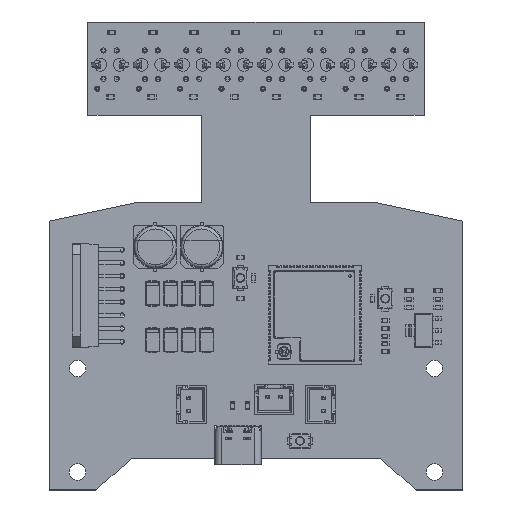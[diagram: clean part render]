
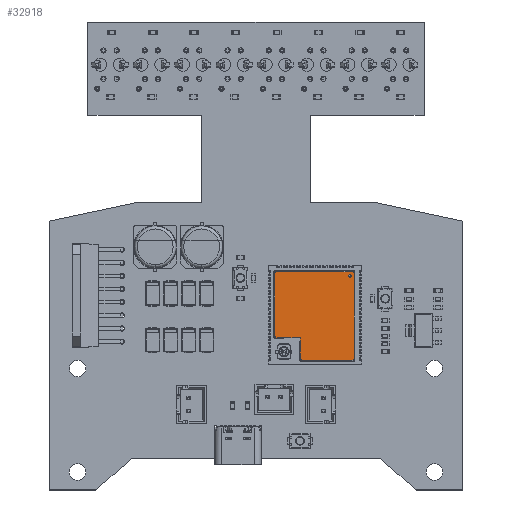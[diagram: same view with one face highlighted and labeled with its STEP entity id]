
A CAD part, top view. The second image highlights one B-rep face of the part: STEP entity #32918.
In plain terms, the highlighted planar face has unit normal (0, 0, 1) as drawn and (0, 1, 0) by its records, which use the part's own axes.
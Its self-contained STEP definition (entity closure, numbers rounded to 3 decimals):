
#32635 = VERTEX_POINT('',#32636);
#32636 = CARTESIAN_POINT('',(-6.73,3.35,7.75));
#32642 = EDGE_CURVE('',#32643,#32635,#32645,.T.);
#32643 = VERTEX_POINT('',#32644);
#32644 = CARTESIAN_POINT('',(-6.73,3.35,7.25));
#32645 = CIRCLE('',#32646,0.25);
#32646 = AXIS2_PLACEMENT_3D('',#32647,#32648,#32649);
#32647 = CARTESIAN_POINT('',(-6.73,3.35,7.5));
#32648 = DIRECTION('',(0.,1.,0.));
#32649 = DIRECTION('',(0.,-0.,1.));
#32675 = VERTEX_POINT('',#32676);
#32676 = CARTESIAN_POINT('',(-7.36,3.35,8.35));
#32693 = VERTEX_POINT('',#32694);
#32694 = CARTESIAN_POINT('',(-7.559,3.35,8.129));
#32700 = EDGE_CURVE('',#32693,#32675,#32701,.T.);
#32701 = CIRCLE('',#32702,0.2);
#32702 = AXIS2_PLACEMENT_3D('',#32703,#32704,#32705);
#32703 = CARTESIAN_POINT('',(-7.559,3.35,8.329));
#32704 = DIRECTION('',(0.,-1.,0.));
#32705 = DIRECTION('',(0.,0.,-1.));
#32716 = VERTEX_POINT('',#32717);
#32717 = CARTESIAN_POINT('',(7.77,3.35,8.13));
#32734 = VERTEX_POINT('',#32735);
#32735 = CARTESIAN_POINT('',(7.749,3.35,8.129));
#32741 = EDGE_CURVE('',#32734,#32716,#32742,.T.);
#32742 = CIRCLE('',#32743,0.2);
#32743 = AXIS2_PLACEMENT_3D('',#32744,#32745,#32746);
#32744 = CARTESIAN_POINT('',(7.749,3.35,8.329));
#32745 = DIRECTION('',(0.,-1.,0.));
#32746 = DIRECTION('',(0.,0.,-1.));
#32757 = VERTEX_POINT('',#32758);
#32758 = CARTESIAN_POINT('',(7.77,3.35,-4.23));
#32767 = EDGE_CURVE('',#32768,#32757,#32770,.T.);
#32768 = VERTEX_POINT('',#32769);
#32769 = CARTESIAN_POINT('',(7.749,3.35,-4.229));
#32770 = CIRCLE('',#32771,0.2);
#32771 = AXIS2_PLACEMENT_3D('',#32772,#32773,#32774);
#32772 = CARTESIAN_POINT('',(7.749,3.35,-4.429));
#32773 = DIRECTION('',(0.,1.,-0.));
#32774 = DIRECTION('',(0.,0.,1.));
#32918 = ADVANCED_FACE('',(#32919,#32929),#33046,.F.);
#32919 = FACE_BOUND('',#32920,.T.);
#32920 = EDGE_LOOP('',(#32921,#32928));
#32921 = ORIENTED_EDGE('',*,*,#32922,.F.);
#32922 = EDGE_CURVE('',#32635,#32643,#32923,.T.);
#32923 = CIRCLE('',#32924,0.25);
#32924 = AXIS2_PLACEMENT_3D('',#32925,#32926,#32927);
#32925 = CARTESIAN_POINT('',(-6.73,3.35,7.5));
#32926 = DIRECTION('',(0.,1.,0.));
#32927 = DIRECTION('',(0.,-0.,1.));
#32928 = ORIENTED_EDGE('',*,*,#32642,.F.);
#32929 = FACE_BOUND('',#32930,.T.);
#32930 = EDGE_LOOP('',(#32931,#32941,#32948,#32949,#32957,#32964,#32965,
    #32971,#32972,#32981,#32989,#32997,#33006,#33014,#33022,#33031,
    #33039));
#32931 = ORIENTED_EDGE('',*,*,#32932,.T.);
#32932 = EDGE_CURVE('',#32933,#32935,#32937,.T.);
#32933 = VERTEX_POINT('',#32934);
#32934 = CARTESIAN_POINT('',(-7.58,3.35,-8.63));
#32935 = VERTEX_POINT('',#32936);
#32936 = CARTESIAN_POINT('',(-7.58,3.35,8.13));
#32937 = LINE('',#32938,#32939);
#32938 = CARTESIAN_POINT('',(-7.58,3.35,-8.85));
#32939 = VECTOR('',#32940,1.);
#32940 = DIRECTION('',(-0.,-0.,1.));
#32941 = ORIENTED_EDGE('',*,*,#32942,.T.);
#32942 = EDGE_CURVE('',#32935,#32693,#32943,.T.);
#32943 = CIRCLE('',#32944,0.2);
#32944 = AXIS2_PLACEMENT_3D('',#32945,#32946,#32947);
#32945 = CARTESIAN_POINT('',(-7.559,3.35,8.329));
#32946 = DIRECTION('',(0.,-1.,0.));
#32947 = DIRECTION('',(0.,0.,-1.));
#32948 = ORIENTED_EDGE('',*,*,#32700,.T.);
#32949 = ORIENTED_EDGE('',*,*,#32950,.T.);
#32950 = EDGE_CURVE('',#32675,#32951,#32953,.T.);
#32951 = VERTEX_POINT('',#32952);
#32952 = CARTESIAN_POINT('',(7.55,3.35,8.35));
#32953 = LINE('',#32954,#32955);
#32954 = CARTESIAN_POINT('',(-7.58,3.35,8.35));
#32955 = VECTOR('',#32956,1.);
#32956 = DIRECTION('',(1.,0.,0.));
#32957 = ORIENTED_EDGE('',*,*,#32958,.T.);
#32958 = EDGE_CURVE('',#32951,#32734,#32959,.T.);
#32959 = CIRCLE('',#32960,0.2);
#32960 = AXIS2_PLACEMENT_3D('',#32961,#32962,#32963);
#32961 = CARTESIAN_POINT('',(7.749,3.35,8.329));
#32962 = DIRECTION('',(0.,-1.,0.));
#32963 = DIRECTION('',(0.,0.,-1.));
#32964 = ORIENTED_EDGE('',*,*,#32741,.T.);
#32965 = ORIENTED_EDGE('',*,*,#32966,.T.);
#32966 = EDGE_CURVE('',#32716,#32757,#32967,.T.);
#32967 = LINE('',#32968,#32969);
#32968 = CARTESIAN_POINT('',(7.77,3.35,8.35));
#32969 = VECTOR('',#32970,1.);
#32970 = DIRECTION('',(-0.,-0.,-1.));
#32971 = ORIENTED_EDGE('',*,*,#32767,.F.);
#32972 = ORIENTED_EDGE('',*,*,#32973,.F.);
#32973 = EDGE_CURVE('',#32974,#32768,#32976,.T.);
#32974 = VERTEX_POINT('',#32975);
#32975 = CARTESIAN_POINT('',(7.55,3.35,-4.45));
#32976 = CIRCLE('',#32977,0.2);
#32977 = AXIS2_PLACEMENT_3D('',#32978,#32979,#32980);
#32978 = CARTESIAN_POINT('',(7.749,3.35,-4.429));
#32979 = DIRECTION('',(0.,1.,-0.));
#32980 = DIRECTION('',(0.,0.,1.));
#32981 = ORIENTED_EDGE('',*,*,#32982,.T.);
#32982 = EDGE_CURVE('',#32974,#32983,#32985,.T.);
#32983 = VERTEX_POINT('',#32984);
#32984 = CARTESIAN_POINT('',(6.027,3.35,-4.45));
#32985 = LINE('',#32986,#32987);
#32986 = CARTESIAN_POINT('',(7.77,3.35,-4.45));
#32987 = VECTOR('',#32988,1.);
#32988 = DIRECTION('',(-1.,0.,0.));
#32989 = ORIENTED_EDGE('',*,*,#32990,.F.);
#32990 = EDGE_CURVE('',#32991,#32983,#32993,.T.);
#32991 = VERTEX_POINT('',#32992);
#32992 = CARTESIAN_POINT('',(3.041,3.35,-4.45));
#32993 = LINE('',#32994,#32995);
#32994 = CARTESIAN_POINT('',(3.041,3.35,-4.45));
#32995 = VECTOR('',#32996,1.);
#32996 = DIRECTION('',(1.,0.,0.));
#32997 = ORIENTED_EDGE('',*,*,#32998,.T.);
#32998 = EDGE_CURVE('',#32991,#32999,#33001,.T.);
#32999 = VERTEX_POINT('',#33000);
#33000 = CARTESIAN_POINT('',(2.87,3.35,-4.621));
#33001 = CIRCLE('',#33002,0.121);
#33002 = AXIS2_PLACEMENT_3D('',#33003,#33004,#33005);
#33003 = CARTESIAN_POINT('',(2.955,3.35,-4.535));
#33004 = DIRECTION('',(0.,-1.,0.));
#33005 = DIRECTION('',(0.,0.,-1.));
#33006 = ORIENTED_EDGE('',*,*,#33007,.T.);
#33007 = EDGE_CURVE('',#32999,#33008,#33010,.T.);
#33008 = VERTEX_POINT('',#33009);
#33009 = CARTESIAN_POINT('',(2.87,3.35,-5.183));
#33010 = LINE('',#33011,#33012);
#33011 = CARTESIAN_POINT('',(2.87,3.35,-4.45));
#33012 = VECTOR('',#33013,1.);
#33013 = DIRECTION('',(-0.,-0.,-1.));
#33014 = ORIENTED_EDGE('',*,*,#33015,.T.);
#33015 = EDGE_CURVE('',#33008,#33016,#33018,.T.);
#33016 = VERTEX_POINT('',#33017);
#33017 = CARTESIAN_POINT('',(2.87,3.35,-8.63));
#33018 = LINE('',#33019,#33020);
#33019 = CARTESIAN_POINT('',(2.87,3.35,-4.45));
#33020 = VECTOR('',#33021,1.);
#33021 = DIRECTION('',(-0.,-0.,-1.));
#33022 = ORIENTED_EDGE('',*,*,#33023,.T.);
#33023 = EDGE_CURVE('',#33016,#33024,#33026,.T.);
#33024 = VERTEX_POINT('',#33025);
#33025 = CARTESIAN_POINT('',(2.65,3.35,-8.85));
#33026 = CIRCLE('',#33027,0.2);
#33027 = AXIS2_PLACEMENT_3D('',#33028,#33029,#33030);
#33028 = CARTESIAN_POINT('',(2.849,3.35,-8.829));
#33029 = DIRECTION('',(0.,-1.,-0.));
#33030 = DIRECTION('',(0.,0.,-1.));
#33031 = ORIENTED_EDGE('',*,*,#33032,.T.);
#33032 = EDGE_CURVE('',#33024,#33033,#33035,.T.);
#33033 = VERTEX_POINT('',#33034);
#33034 = CARTESIAN_POINT('',(-7.36,3.35,-8.85));
#33035 = LINE('',#33036,#33037);
#33036 = CARTESIAN_POINT('',(2.87,3.35,-8.85));
#33037 = VECTOR('',#33038,1.);
#33038 = DIRECTION('',(-1.,0.,0.));
#33039 = ORIENTED_EDGE('',*,*,#33040,.T.);
#33040 = EDGE_CURVE('',#33033,#32933,#33041,.T.);
#33041 = CIRCLE('',#33042,0.2);
#33042 = AXIS2_PLACEMENT_3D('',#33043,#33044,#33045);
#33043 = CARTESIAN_POINT('',(-7.559,3.35,-8.829));
#33044 = DIRECTION('',(0.,-1.,0.));
#33045 = DIRECTION('',(0.,0.,-1.));
#33046 = PLANE('',#33047);
#33047 = AXIS2_PLACEMENT_3D('',#33048,#33049,#33050);
#33048 = CARTESIAN_POINT('',(0.,3.35,0.));
#33049 = DIRECTION('',(0.,-1.,0.));
#33050 = DIRECTION('',(0.,-0.,-1.));
